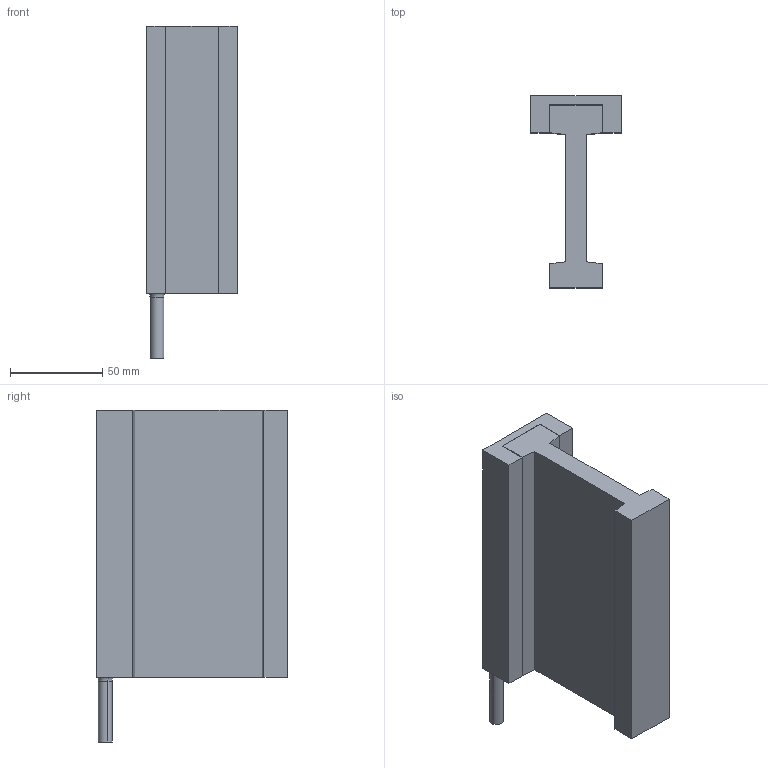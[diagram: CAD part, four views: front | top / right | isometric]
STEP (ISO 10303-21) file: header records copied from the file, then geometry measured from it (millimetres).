
FILE_DESCRIPTION (( 'STEP AP214' ), '1' );
FILE_NAME ('DX65F-C2-NH.step', '2022-09-22T03:41:49', ( '' ), ( '' ), 'SwSTEP 2.0', 'SolidWorks 2020', '' );
FILE_SCHEMA (( 'AUTOMOTIVE_DESIGN' ));
Length unit declared in the file: millimetre
Products named in the file (1): DX65F-C2-NH
Bounding box: 49 x 104 x 180 mm (x, y, z)
Volume: 310776.2 mm3; surface area: 72949.2 mm2
Topology: 3 solids, 3 shells, 69 faces, 164 edges, 98 vertices
Faces by surface type: plane 31, cylinder 24, cone 12, torus 2
Entity records: 2711 total; most frequent: DIRECTION 342, CARTESIAN_POINT 320, ORIENTED_EDGE 304, EDGE_CURVE 152, AXIS2_PLACEMENT_3D 120, VECTOR 102, LINE 102, VERTEX_POINT 98
